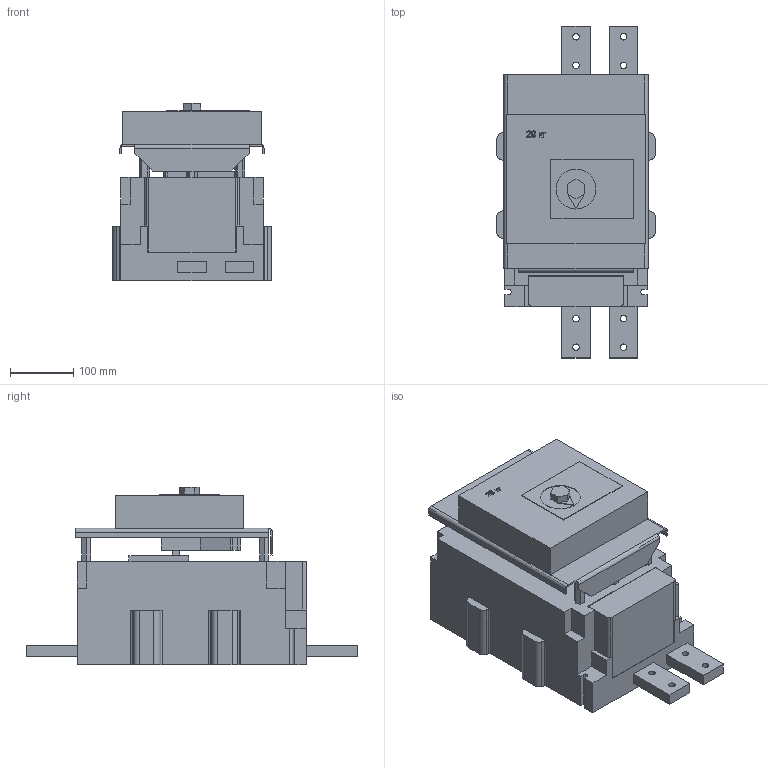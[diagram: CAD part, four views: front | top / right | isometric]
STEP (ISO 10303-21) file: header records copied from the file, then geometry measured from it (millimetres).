
FILE_DESCRIPTION (( 'STEP AP214' ), '1' );
FILE_NAME ('ÂÀ53(55)-41 ñ ÝÌ ïðèâîäîì DC.STEP', '2023-02-13T07:05:48', ( 'user' ), ( '' ), 'SwSTEP 2.0', 'SolidWorks 2018', '' );
FILE_SCHEMA (( 'AUTOMOTIVE_DESIGN' ));
Length unit declared in the file: millimetre
Products named in the file (1): ÂÀ53(55)-41 ñ ÝÌ ïðèâîäîì DC
Bounding box: 250 x 523 x 279.15 mm (x, y, z)
Volume: 16572306.7 mm3; surface area: 731962.9 mm2
Topology: 5 solids, 5 shells, 244 faces, 693 edges, 477 vertices
Faces by surface type: plane 193, cylinder 47, bspline 4
Entity records: 8477 total; most frequent: CARTESIAN_POINT 1919, ORIENTED_EDGE 1386, DIRECTION 1230, EDGE_CURVE 693, LINE 560, VECTOR 560, VERTEX_POINT 477, AXIS2_PLACEMENT_3D 335
